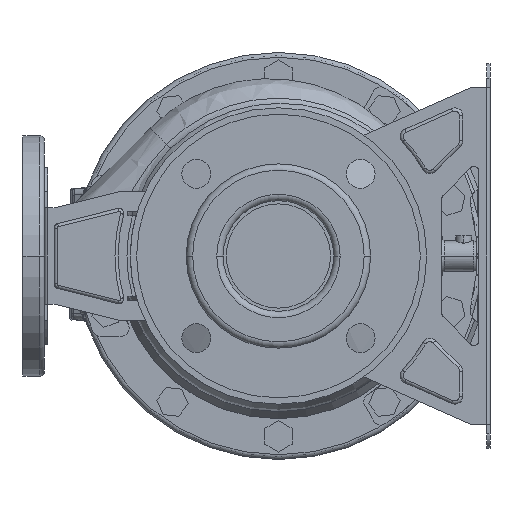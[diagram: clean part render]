
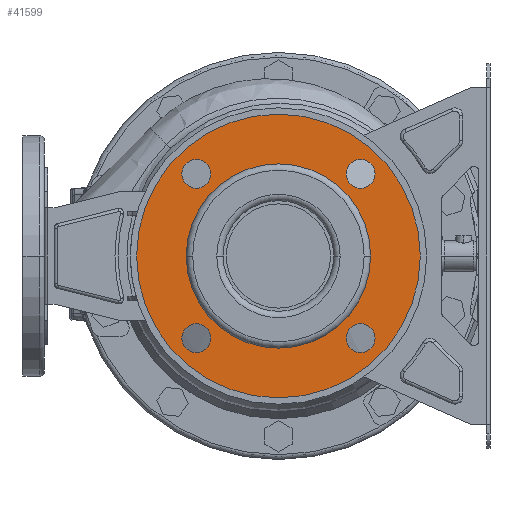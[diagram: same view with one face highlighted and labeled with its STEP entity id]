
A CAD part, front view. The second image highlights one B-rep face of the part: STEP entity #41599.
In plain terms, the highlighted planar face has unit normal (0, -1, 0).
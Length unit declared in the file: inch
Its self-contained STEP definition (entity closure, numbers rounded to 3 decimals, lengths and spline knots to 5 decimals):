
#1351 = CIRCLE ( 'NONE', #109102, 2.26378 ) ;
#1885 = EDGE_CURVE ( 'NONE', #41685, #23166, #73782, .T. ) ;
#2832 = CIRCLE ( 'NONE', #94344, 0.35433 ) ;
#4691 = AXIS2_PLACEMENT_3D ( 'NONE', #96415, #96957, #87953 ) ;
#5199 = ORIENTED_EDGE ( 'NONE', *, *, #67687, .T. ) ;
#6045 = DIRECTION ( 'NONE',  ( 0., 1., 0. ) ) ;
#10133 = EDGE_LOOP ( 'NONE', ( #66863, #82790 ) ) ;
#12465 = DIRECTION ( 'NONE',  ( 0., 0., 1. ) ) ;
#12620 = CARTESIAN_POINT ( 'NONE',  ( -2.26378, -7.32283, 0. ) ) ;
#13099 = CARTESIAN_POINT ( 'NONE',  ( 0., -7.32283, 0. ) ) ;
#13673 = CIRCLE ( 'NONE', #4691, 0.35433 ) ;
#13944 = CARTESIAN_POINT ( 'NONE',  ( -2.01832, -7.32283, 2.37265 ) ) ;
#14410 = VERTEX_POINT ( 'NONE', #33993 ) ;
#15354 = ORIENTED_EDGE ( 'NONE', *, *, #65782, .T. ) ;
#16146 = DIRECTION ( 'NONE',  ( -1., 0., 0. ) ) ;
#18135 = EDGE_LOOP ( 'NONE', ( #99669, #31048 ) ) ;
#20431 = DIRECTION ( 'NONE',  ( -1., 0., 0. ) ) ;
#21281 = DIRECTION ( 'NONE',  ( -1., 0., 0. ) ) ;
#22231 = DIRECTION ( 'NONE',  ( 0., 1., 0. ) ) ;
#22259 = CIRCLE ( 'NONE', #85098, 0.35433 ) ;
#22335 = EDGE_CURVE ( 'NONE', #75088, #14410, #13673, .T. ) ;
#23166 = VERTEX_POINT ( 'NONE', #39929 ) ;
#24198 = CARTESIAN_POINT ( 'NONE',  ( 2.01832, -7.32283, 2.01832 ) ) ;
#25000 = CARTESIAN_POINT ( 'NONE',  ( 0., -7.32283, 0. ) ) ;
#25366 = AXIS2_PLACEMENT_3D ( 'NONE', #37757, #73164, #12465 ) ;
#26088 = CARTESIAN_POINT ( 'NONE',  ( -1.66399, -7.32283, -2.01832 ) ) ;
#28110 = CIRCLE ( 'NONE', #96120, 0.35433 ) ;
#29360 = EDGE_CURVE ( 'NONE', #34920, #30015, #28110, .T. ) ;
#30015 = VERTEX_POINT ( 'NONE', #63973 ) ;
#30226 = AXIS2_PLACEMENT_3D ( 'NONE', #67307, #75197, #16146 ) ;
#30799 = FACE_BOUND ( 'NONE', #10133, .T. ) ;
#31048 = ORIENTED_EDGE ( 'NONE', *, *, #29360, .T. ) ;
#31890 = CARTESIAN_POINT ( 'NONE',  ( 0., -7.32283, 0. ) ) ;
#32308 = VERTEX_POINT ( 'NONE', #95580 ) ;
#32426 = FACE_BOUND ( 'NONE', #89976, .T. ) ;
#32785 = CARTESIAN_POINT ( 'NONE',  ( -3.48425, -7.32283, 0. ) ) ;
#33993 = CARTESIAN_POINT ( 'NONE',  ( -2.01832, -7.32283, 1.66399 ) ) ;
#34291 = DIRECTION ( 'NONE',  ( 0., 1., 0. ) ) ;
#34696 = DIRECTION ( 'NONE',  ( 0., 1., 0. ) ) ;
#34920 = VERTEX_POINT ( 'NONE', #59630 ) ;
#35154 = AXIS2_PLACEMENT_3D ( 'NONE', #13099, #72130, #20431 ) ;
#35746 = DIRECTION ( 'NONE',  ( 0., 1., 0. ) ) ;
#35830 = ORIENTED_EDGE ( 'NONE', *, *, #68196, .T. ) ;
#35986 = EDGE_LOOP ( 'NONE', ( #53437, #35830 ) ) ;
#37011 = EDGE_CURVE ( 'NONE', #44822, #98356, #1351, .T. ) ;
#37757 = CARTESIAN_POINT ( 'NONE',  ( 2.01832, -7.32283, -2.01832 ) ) ;
#39929 = CARTESIAN_POINT ( 'NONE',  ( 2.01832, -7.32283, -1.66399 ) ) ;
#41599 = ADVANCED_FACE ( 'NONE', ( #49826, #108430, #56634, #30799, #32426, #65069 ), #92627, .F. ) ;
#41685 = VERTEX_POINT ( 'NONE', #59934 ) ;
#42781 = EDGE_CURVE ( 'NONE', #44822, #98356, #50296, .T. ) ;
#43109 = CARTESIAN_POINT ( 'NONE',  ( 2.01832, -7.32283, 2.01832 ) ) ;
#44498 = AXIS2_PLACEMENT_3D ( 'NONE', #59722, #103077, #104182 ) ;
#44822 = VERTEX_POINT ( 'NONE', #12620 ) ;
#45923 = CIRCLE ( 'NONE', #35154, 3.48425 ) ;
#49826 = FACE_OUTER_BOUND ( 'NONE', #35986, .T. ) ;
#50196 = CARTESIAN_POINT ( 'NONE',  ( 2.26378, -7.32283, 0. ) ) ;
#50296 = CIRCLE ( 'NONE', #89885, 2.26378 ) ;
#52285 = VERTEX_POINT ( 'NONE', #94704 ) ;
#53437 = ORIENTED_EDGE ( 'NONE', *, *, #55205, .F. ) ;
#55205 = EDGE_CURVE ( 'NONE', #84273, #32308, #75059, .T. ) ;
#56634 = FACE_BOUND ( 'NONE', #18135, .T. ) ;
#58480 = DIRECTION ( 'NONE',  ( -1., 0., 0. ) ) ;
#59630 = CARTESIAN_POINT ( 'NONE',  ( 1.66399, -7.32283, 2.01832 ) ) ;
#59722 = CARTESIAN_POINT ( 'NONE',  ( -2.01832, -7.32283, -2.01832 ) ) ;
#59934 = CARTESIAN_POINT ( 'NONE',  ( 2.01832, -7.32283, -2.37265 ) ) ;
#60990 = EDGE_CURVE ( 'NONE', #30015, #34920, #66608, .T. ) ;
#62675 = CARTESIAN_POINT ( 'NONE',  ( 2.01832, -7.32283, -2.01832 ) ) ;
#63268 = CARTESIAN_POINT ( 'NONE',  ( -2.01832, -7.32283, -2.01832 ) ) ;
#63973 = CARTESIAN_POINT ( 'NONE',  ( 2.37265, -7.32283, 2.01832 ) ) ;
#64852 = AXIS2_PLACEMENT_3D ( 'NONE', #43109, #34696, #108083 ) ;
#65069 = FACE_BOUND ( 'NONE', #73733, .T. ) ;
#65782 = EDGE_CURVE ( 'NONE', #14410, #75088, #22259, .T. ) ;
#66058 = DIRECTION ( 'NONE',  ( 0., 1., 0. ) ) ;
#66589 = CIRCLE ( 'NONE', #25366, 0.35433 ) ;
#66608 = CIRCLE ( 'NONE', #64852, 0.35433 ) ;
#66863 = ORIENTED_EDGE ( 'NONE', *, *, #1885, .T. ) ;
#67307 = CARTESIAN_POINT ( 'NONE',  ( 0., -7.32283, 0. ) ) ;
#67687 = EDGE_CURVE ( 'NONE', #79512, #52285, #2832, .T. ) ;
#68196 = EDGE_CURVE ( 'NONE', #84273, #32308, #45923, .T. ) ;
#71583 = EDGE_LOOP ( 'NONE', ( #98004, #77202 ) ) ;
#71858 = CARTESIAN_POINT ( 'NONE',  ( 0., -7.32283, 0. ) ) ;
#72130 = DIRECTION ( 'NONE',  ( 0., -1., 0. ) ) ;
#72216 = DIRECTION ( 'NONE',  ( 0., 1., 0. ) ) ;
#73164 = DIRECTION ( 'NONE',  ( 0., 1., 0. ) ) ;
#73733 = EDGE_LOOP ( 'NONE', ( #82524, #15354 ) ) ;
#73782 = CIRCLE ( 'NONE', #75527, 0.35433 ) ;
#75059 = CIRCLE ( 'NONE', #30226, 3.48425 ) ;
#75088 = VERTEX_POINT ( 'NONE', #13944 ) ;
#75197 = DIRECTION ( 'NONE',  ( 0., 1., 0. ) ) ;
#75527 = AXIS2_PLACEMENT_3D ( 'NONE', #62675, #72216, #79002 ) ;
#77202 = ORIENTED_EDGE ( 'NONE', *, *, #42781, .T. ) ;
#79002 = DIRECTION ( 'NONE',  ( 0., 0., -1. ) ) ;
#79512 = VERTEX_POINT ( 'NONE', #26088 ) ;
#80405 = CIRCLE ( 'NONE', #44498, 0.35433 ) ;
#80719 = CARTESIAN_POINT ( 'NONE',  ( -2.01832, -7.32283, 2.01832 ) ) ;
#82524 = ORIENTED_EDGE ( 'NONE', *, *, #22335, .T. ) ;
#82790 = ORIENTED_EDGE ( 'NONE', *, *, #94631, .T. ) ;
#84273 = VERTEX_POINT ( 'NONE', #32785 ) ;
#85098 = AXIS2_PLACEMENT_3D ( 'NONE', #80719, #22231, #97639 ) ;
#87953 = DIRECTION ( 'NONE',  ( 0., 0., 1. ) ) ;
#89195 = ORIENTED_EDGE ( 'NONE', *, *, #104946, .T. ) ;
#89885 = AXIS2_PLACEMENT_3D ( 'NONE', #25000, #66058, #93620 ) ;
#89976 = EDGE_LOOP ( 'NONE', ( #89195, #5199 ) ) ;
#91810 = AXIS2_PLACEMENT_3D ( 'NONE', #31890, #6045, #99423 ) ;
#92627 = PLANE ( 'NONE',  #91810 ) ;
#93620 = DIRECTION ( 'NONE',  ( -1., 0., 0. ) ) ;
#94344 = AXIS2_PLACEMENT_3D ( 'NONE', #63268, #35746, #104407 ) ;
#94631 = EDGE_CURVE ( 'NONE', #23166, #41685, #66589, .T. ) ;
#94704 = CARTESIAN_POINT ( 'NONE',  ( -2.37265, -7.32283, -2.01832 ) ) ;
#95580 = CARTESIAN_POINT ( 'NONE',  ( 3.48425, -7.32283, 0. ) ) ;
#96120 = AXIS2_PLACEMENT_3D ( 'NONE', #24198, #34291, #58480 ) ;
#96415 = CARTESIAN_POINT ( 'NONE',  ( -2.01832, -7.32283, 2.01832 ) ) ;
#96957 = DIRECTION ( 'NONE',  ( 0., 1., 0. ) ) ;
#97639 = DIRECTION ( 'NONE',  ( 0., 0., -1. ) ) ;
#98004 = ORIENTED_EDGE ( 'NONE', *, *, #37011, .F. ) ;
#98351 = DIRECTION ( 'NONE',  ( 0., -1., 0. ) ) ;
#98356 = VERTEX_POINT ( 'NONE', #50196 ) ;
#99423 = DIRECTION ( 'NONE',  ( -1., 0., 0. ) ) ;
#99669 = ORIENTED_EDGE ( 'NONE', *, *, #60990, .T. ) ;
#103077 = DIRECTION ( 'NONE',  ( 0., 1., 0. ) ) ;
#104182 = DIRECTION ( 'NONE',  ( -1., 0., 0. ) ) ;
#104407 = DIRECTION ( 'NONE',  ( 1., 0., 0. ) ) ;
#104946 = EDGE_CURVE ( 'NONE', #52285, #79512, #80405, .T. ) ;
#108083 = DIRECTION ( 'NONE',  ( 1., 0., 0. ) ) ;
#108430 = FACE_BOUND ( 'NONE', #71583, .T. ) ;
#109102 = AXIS2_PLACEMENT_3D ( 'NONE', #71858, #98351, #21281 ) ;
